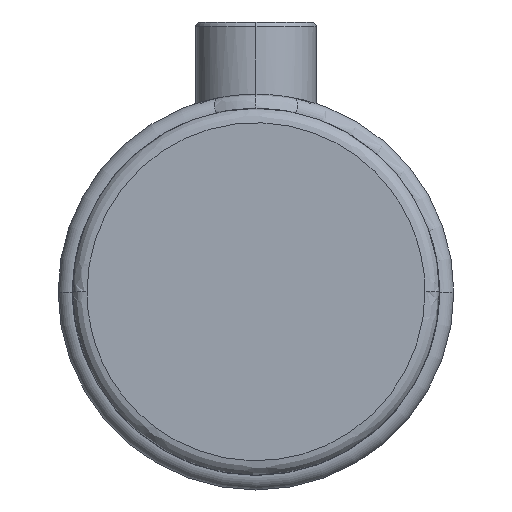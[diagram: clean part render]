
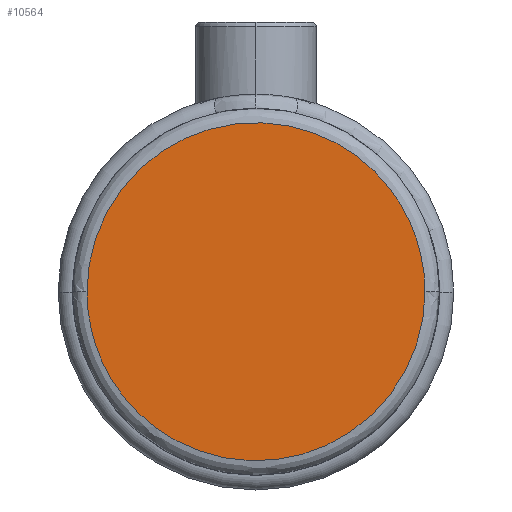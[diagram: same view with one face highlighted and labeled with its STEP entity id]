
A CAD part, top view. The second image highlights one B-rep face of the part: STEP entity #10564.
In plain terms, the highlighted planar face has unit normal (0, 0, 1).
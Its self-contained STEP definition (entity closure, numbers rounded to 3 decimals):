
#146 = CARTESIAN_POINT ( 'NONE',  ( 35.1, 0., 50. ) ) ;
#412 =( BOUNDED_CURVE ( )  B_SPLINE_CURVE ( 3, ( #8014, #472, #9720, #4681 ),
 .UNSPECIFIED., .F., .F. ) 
 B_SPLINE_CURVE_WITH_KNOTS ( ( 4, 4 ),
 ( 0.75, 1.25 ),
 .UNSPECIFIED. ) 
 CURVE ( )  GEOMETRIC_REPRESENTATION_ITEM ( )  RATIONAL_B_SPLINE_CURVE ( ( 1., 0.333, 0.333, 1. ) ) 
 REPRESENTATION_ITEM ( '' )  );
#472 = CARTESIAN_POINT ( 'NONE',  ( -35.1, 70.2, 50. ) ) ;
#634 = EDGE_CURVE ( 'NONE', #9909, #1023, #6747, .T. ) ;
#856 = CARTESIAN_POINT ( 'NONE',  ( -35.1, 0., 50. ) ) ;
#1023 = VERTEX_POINT ( 'NONE', #856 ) ;
#1406 = CARTESIAN_POINT ( 'NONE',  ( 35.1, 0., 50. ) ) ;
#2303 = DIRECTION ( 'NONE',  ( 1., 0., 0. ) ) ;
#3217 = EDGE_LOOP ( 'NONE', ( #6269, #4952 ) ) ;
#3514 = CARTESIAN_POINT ( 'NONE',  ( 35.1, -70.2, 50. ) ) ;
#3546 = FACE_OUTER_BOUND ( 'NONE', #3217, .T. ) ;
#3972 = PLANE ( 'NONE',  #4409 ) ;
#4359 = CARTESIAN_POINT ( 'NONE',  ( -35.1, 0., 50. ) ) ;
#4409 = AXIS2_PLACEMENT_3D ( 'NONE', #5670, #7356, #2303 ) ;
#4602 = EDGE_CURVE ( 'NONE', #1023, #9909, #412, .T. ) ;
#4681 = CARTESIAN_POINT ( 'NONE',  ( 35.1, 0., 50. ) ) ;
#4952 = ORIENTED_EDGE ( 'NONE', *, *, #4602, .F. ) ;
#5670 = CARTESIAN_POINT ( 'NONE',  ( 0., 19.05, 50. ) ) ;
#6269 = ORIENTED_EDGE ( 'NONE', *, *, #634, .F. ) ;
#6747 =( BOUNDED_CURVE ( )  B_SPLINE_CURVE ( 3, ( #146, #3514, #9387, #4359 ),
 .UNSPECIFIED., .F., .T. ) 
 B_SPLINE_CURVE_WITH_KNOTS ( ( 4, 4 ),
 ( 0.25, 0.75 ),
 .UNSPECIFIED. ) 
 CURVE ( )  GEOMETRIC_REPRESENTATION_ITEM ( )  RATIONAL_B_SPLINE_CURVE ( ( 1., 0.333, 0.333, 1. ) ) 
 REPRESENTATION_ITEM ( '' )  );
#7356 = DIRECTION ( 'NONE',  ( 0., 0., 1. ) ) ;
#8014 = CARTESIAN_POINT ( 'NONE',  ( -35.1, 0., 50. ) ) ;
#9387 = CARTESIAN_POINT ( 'NONE',  ( -35.1, -70.2, 50. ) ) ;
#9720 = CARTESIAN_POINT ( 'NONE',  ( 35.1, 70.2, 50. ) ) ;
#9909 = VERTEX_POINT ( 'NONE', #1406 ) ;
#10564 = ADVANCED_FACE ( 'NONE', ( #3546 ), #3972, .T. ) ;
